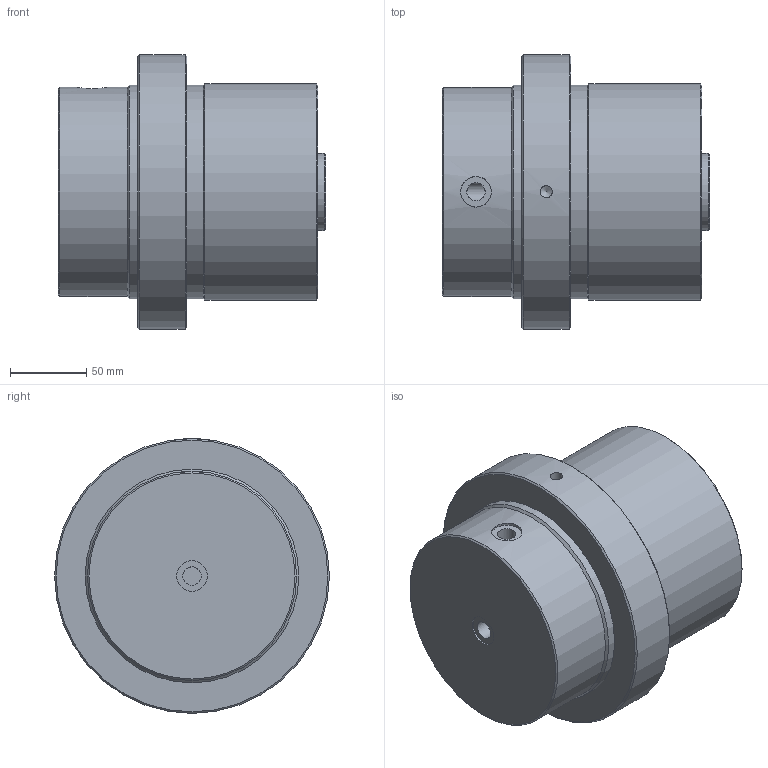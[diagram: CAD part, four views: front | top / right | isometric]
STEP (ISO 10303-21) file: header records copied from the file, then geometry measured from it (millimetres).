
FILE_DESCRIPTION( ( 'Unknown' ), '1' );
FILE_NAME( 'F:/JAKOB-STEP+IGES-Dateien/STEP-Dateien/ZSF/ZSF 16000.stp', 'Unknown', ( 'Unknown' ), ( 'Unknown' ), 'XStep 1.0', 'Unknown', ' ' );
FILE_SCHEMA( ( 'CONFIG_CONTROL_DESIGN' ) );
Length unit declared in the file: millimetre
Products named in the file (1): 1
Bounding box: 175 x 180 x 180 mm (x, y, z)
Volume: 2870008.8 mm3; surface area: 141030.2 mm2
Topology: 1 solids, 1 shells, 30 faces, 68 edges, 43 vertices
Faces by surface type: cylinder 12, cone 10, plane 8
Full cylindrical faces by diameter (mm): 8 x1, 12 x2, 20 x2, 36.5 x1, 50.5 x1, 137 x1, 140 x2, 142 x1, 180 x1
Entity records: 821 total; most frequent: CARTESIAN_POINT 252, DIRECTION 120, ORIENTED_EDGE 62, AXIS2_PLACEMENT_3D 60, EDGE_LOOP 60, FACE_OUTER_BOUND 42, VERTEX_POINT 33, EDGE_CURVE 31
